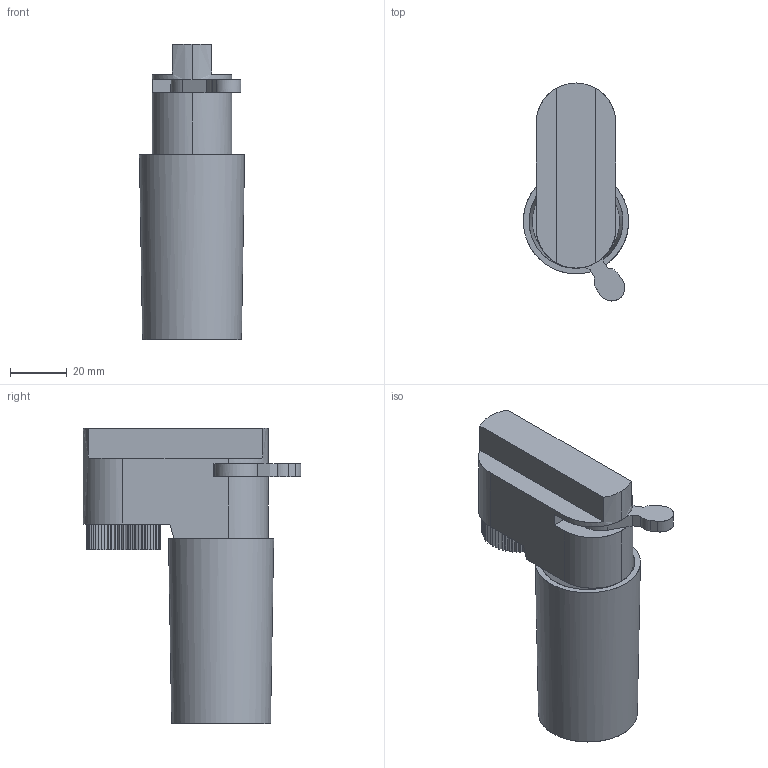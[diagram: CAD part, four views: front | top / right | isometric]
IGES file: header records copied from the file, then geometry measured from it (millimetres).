
Start section: SolidWorks IGES file using NURBS representation for surfaces
Global section: file name: Z:\Modele 3D_WWW\_CAMELEON\PUSZKI WWW\CAMELEON-CANOPY_G_8361_8360\CANOPY_G_8361_8360.IGS; native system: SolidWorks 2021; preprocessor: SolidWorks 2021; author: gabriela.tworek; date: 220302.080736; units: millimetre
Bounding box: 37 x 76.56 x 103.75 mm (x, y, z)
Surface area: 26772.1 mm2 (no closed solid volume)
Topology: 0 solids, 0 shells, 160 faces, 938 edges, 934 vertices
Faces by surface type: bspline 160
